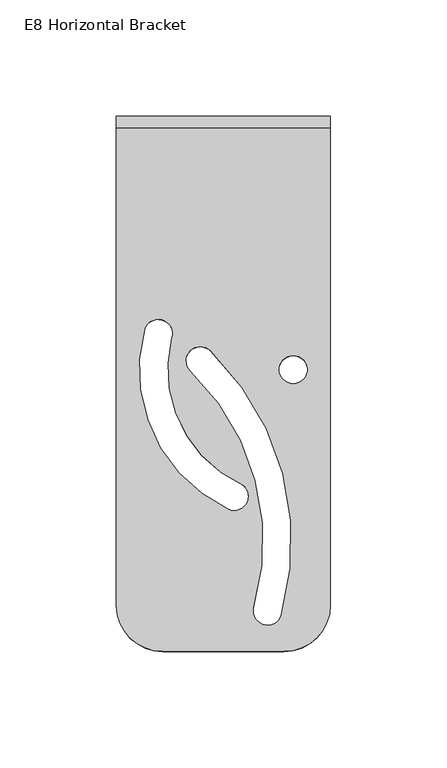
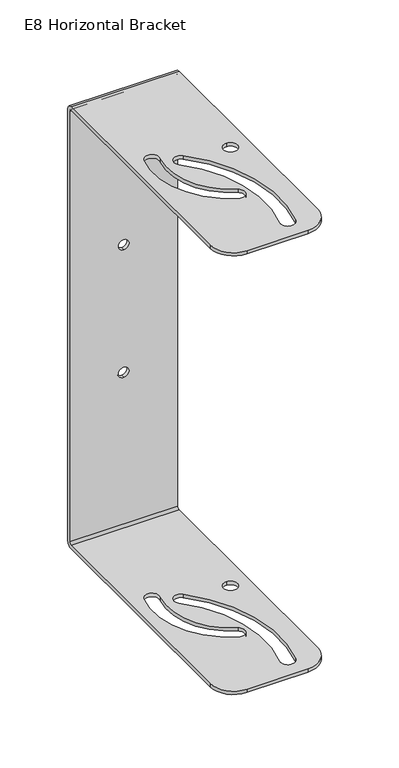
"""IFC4 building model written with IfcOpenShell, lengths in millimetres: proxy geometry, d&b E-Series E8 Horizontal Bracket : E8 Horizontal Bracket."""

from ifc_helpers import new_model, si_unit, frame, origin, place, context, project, spatial, polyline, circle_curve, source, transform, mapped, element, save
from ifc_brep_helpers import plane_surface, cylinder_surface, revolved_surface, advanced_brep


def e8_horizontal_bracket_a681bd05(model_context):
    return source(origin(), model_context, "Body", "AdvancedBrep", [
        advanced_brep(
        [(45.9817027, 153.9690661, -194.0), (45.9817027, 151.9690661, -196.0), (45.9817027, -53.0309339, -196.0), (45.9817027, -53.0309339, -199.0), (45.9817027, 151.9690661, -199.0), (45.9817027, 156.9690661, -194.0), (45.9817027, 156.9690661, 194.0), (45.9817027, 151.9690661, 199.0), (45.9817027, -53.0309339, 199.0), (45.9817027, -53.0309339, 196.0), (45.9817027, 151.9690661, 196.0), (45.9817027, 153.9690661, 194.0), (-46.0182973, 153.9690661, -194.0), (-46.0182973, 153.9690661, 194.0), (-46.0182973, 151.9690661, 196.0), (-46.0182973, -53.0309339, 196.0), (-46.0182973, -53.0309339, 199.0), (-46.0182973, 151.9690661, 199.0), (-46.0182973, 156.9690661, 194.0), (-46.0182973, 156.9690661, -194.0), (-46.0182973, 151.9690661, -199.0), (-46.0182973, -53.0309339, -199.0), (-46.0182973, -53.0309339, -196.0), (-46.0182973, 151.9690661, -196.0), (0.0, 156.9690661, 61.9896337), (0.0, 156.9690661, 53.0103663), (0.0, 156.9690661, -53.0103663), (0.0, 156.9690661, -61.9896337), (0.0, 153.9690661, 53.0103663), (0.0, 153.9690661, 61.9896337), (0.0, 153.9690661, -61.9896337), (0.0, 153.9690661, -53.0103663), (-26.0182973, -73.0309339, 199.0), (25.9817027, -73.0309339, 199.0), (-14.1902572, 47.6455979, 199.0), (-5.7052789, 56.1305762, 199.0), (24.7060015, -57.3658677, 199.0), (13.1188182, -54.2732591, 199.0), (-33.636953, 65.6897539, 199.0), (-22.3223495, 61.571575, 199.0), (7.946898, -1.3324888, 199.0), (2.1938544, -11.8678391, 199.0), (30.0, 42.122613, 199.0), (30.0, 54.077387, 199.0), (25.9817027, -73.0309339, 196.0), (-26.0182973, -73.0309339, 196.0), (-14.1902572, 47.6455979, 196.0), (13.1188182, -54.2732591, 196.0), (24.7060015, -57.3658677, 196.0), (-5.7052789, 56.1305762, 196.0), (-33.636953, 65.6897539, 196.0), (2.1938544, -11.8678391, 196.0), (7.946898, -1.3324888, 196.0), (-22.3223495, 61.571575, 196.0), (30.0, 42.122613, 196.0), (30.0, 54.077387, 196.0), (-26.0182973, -73.0309339, -196.0), (25.9817027, -73.0309339, -196.0), (-14.1902572, 47.6455979, -196.0), (-5.7052789, 56.1305762, -196.0), (24.7060015, -57.3658677, -196.0), (13.1188182, -54.2732591, -196.0), (-33.636953, 65.6897539, -196.0), (-22.3223495, 61.571575, -196.0), (7.946898, -1.3324888, -196.0), (2.1938544, -11.8678391, -196.0), (30.0, 42.122613, -196.0), (30.0, 54.077387, -196.0), (25.9817027, -73.0309339, -199.0), (-26.0182973, -73.0309339, -199.0), (-14.1902572, 47.6455979, -199.0), (13.1188182, -54.2732591, -199.0), (24.7060015, -57.3658677, -199.0), (-5.7052789, 56.1305762, -199.0), (-33.636953, 65.6897539, -199.0), (2.1938544, -11.8678391, -199.0), (7.946898, -1.3324888, -199.0), (-22.3223495, 61.571575, -199.0), (30.0, 42.122613, -199.0), (30.0, 54.077387, -199.0)],
        [
            (0, 1, circle_curve(frame((45.9817027, 151.9690661, -194.0), z_axis=(-1.0, 0.0, 0.0), x_axis=(0.0, 1.0, 0.0)), 2.0)),
            (1, 2),
            (2, 3),
            (3, 4),
            (4, 5, circle_curve(frame((45.9817027, 151.9690661, -194.0), z_axis=(1.0, 0.0, 0.0), x_axis=(0.0, 1.0, 0.0)), 5.0)),
            (5, 6),
            (6, 7, circle_curve(frame((45.9817027, 151.9690661, 194.0), z_axis=(1.0, 0.0, 0.0), x_axis=(0.0, 1.0, 0.0)), 5.0)),
            (7, 8),
            (8, 9),
            (9, 10),
            (10, 11, circle_curve(frame((45.9817027, 151.9690661, 194.0), z_axis=(-1.0, 0.0, 0.0), x_axis=(0.0, 1.0, 0.0)), 2.0)),
            (11, 0),
            (12, 13),
            (13, 14, circle_curve(frame((-46.0182973, 151.9690661, 194.0), z_axis=(1.0, 0.0, 0.0), x_axis=(0.0, 1.0, 0.0)), 2.0)),
            (14, 15),
            (15, 16),
            (16, 17),
            (17, 18, circle_curve(frame((-46.0182973, 151.9690661, 194.0), z_axis=(-1.0, 0.0, 0.0), x_axis=(0.0, 1.0, 0.0)), 5.0)),
            (18, 19),
            (19, 20, circle_curve(frame((-46.0182973, 151.9690661, -194.0), z_axis=(-1.0, 0.0, 0.0), x_axis=(0.0, 1.0, 0.0)), 5.0)),
            (20, 21),
            (21, 22),
            (22, 23),
            (23, 12, circle_curve(frame((-46.0182973, 151.9690661, -194.0), z_axis=(1.0, 0.0, 0.0), x_axis=(0.0, 1.0, 0.0)), 2.0)),
            (0, 12),
            (23, 1),
            (4, 20),
            (19, 5),
            (18, 6),
            (24, 25, circle_curve(frame((0.0, 156.9690661, 57.5), z_axis=(0.0, -1.0, 0.0), x_axis=(0.0, 0.0, -1.0)), 4.4896337)),
            (25, 24, circle_curve(frame((0.0, 156.9690661, 57.5), z_axis=(0.0, -1.0, 0.0), x_axis=(0.0, 0.0, -1.0)), 4.4896337)),
            (26, 27, circle_curve(frame((0.0, 156.9690661, -57.5), z_axis=(0.0, -1.0, 0.0), x_axis=(0.0, 0.0, -1.0)), 4.4896337)),
            (27, 26, circle_curve(frame((0.0, 156.9690661, -57.5), z_axis=(0.0, -1.0, 0.0), x_axis=(0.0, 0.0, -1.0)), 4.4896337)),
            (17, 7),
            (10, 14),
            (13, 11),
            (28, 29, circle_curve(frame((0.0, 153.9690661, 57.5), z_axis=(0.0, 1.0, 0.0), x_axis=(0.0, 0.0, -1.0)), 4.4896337)),
            (29, 28, circle_curve(frame((0.0, 153.9690661, 57.5), z_axis=(0.0, 1.0, 0.0), x_axis=(0.0, 0.0, -1.0)), 4.4896337)),
            (30, 31, circle_curve(frame((0.0, 153.9690661, -57.5), z_axis=(0.0, 1.0, 0.0), x_axis=(0.0, 0.0, -1.0)), 4.4896337)),
            (31, 30, circle_curve(frame((0.0, 153.9690661, -57.5), z_axis=(0.0, 1.0, 0.0), x_axis=(0.0, 0.0, -1.0)), 4.4896337)),
            (16, 32, circle_curve(frame((-26.0182973, -53.0309339, 199.0), z_axis=(0.0, 0.0, 1.0), x_axis=(0.0, 1.0, 0.0)), 20.0)),
            (32, 33),
            (33, 8, circle_curve(frame((25.9817027, -53.0309339, 199.0), z_axis=(0.0, 0.0, 1.0), x_axis=(0.0, 1.0, 0.0)), 20.0)),
            (34, 35, circle_curve(frame((-9.9836293, 51.9239482, 199.0), z_axis=(0.0, 0.0, -1.0), x_axis=(0.0, 1.0, 0.0)), 6.0)),
            (35, 36, circle_curve(frame((-84.5730083, -25.8245292, 199.0), z_axis=(0.0, 0.0, -1.0), x_axis=(0.0, 1.0, 0.0)), 113.73987)),
            (36, 37, circle_curve(frame((18.9660317, -55.6186567, 199.0), z_axis=(0.0, 0.0, -1.0), x_axis=(0.0, 1.0, 0.0)), 6.0)),
            (37, 34, circle_curve(frame((-84.2439289, -25.7433777, 199.0), z_axis=(0.0, 0.0, 1.0), x_axis=(0.0, 1.0, 0.0)), 101.4566837)),
            (38, 39, circle_curve(frame((-27.9879054, 63.6079863, 199.0), z_axis=(0.0, 0.0, -1.0), x_axis=(0.0, 1.0, 0.0)), 6.0204231)),
            (39, 40, circle_curve(frame((30.187041, 48.1041692, 199.0), z_axis=(0.0, 0.0, 1.0), x_axis=(0.0, 1.0, 0.0)), 54.208921)),
            (40, 41, circle_curve(frame((4.6379817, -6.3640461, 199.0), z_axis=(0.0, 0.0, -1.0), x_axis=(0.0, 1.0, 0.0)), 6.022084)),
            (41, 38, circle_curve(frame((30.2083692, 48.1301056, 199.0), z_axis=(0.0, 0.0, -1.0), x_axis=(0.0, 1.0, 0.0)), 66.2160586)),
            (42, 43, circle_curve(frame((30.0, 48.1, 199.0), z_axis=(0.0, 0.0, -1.0), x_axis=(0.0, 1.0, 0.0)), 5.977387)),
            (43, 42, circle_curve(frame((30.0, 48.1, 199.0), z_axis=(0.0, 0.0, -1.0), x_axis=(0.0, 1.0, 0.0)), 5.977387)),
            (9, 44, circle_curve(frame((25.9817027, -53.0309339, 196.0), z_axis=(0.0, 0.0, -1.0), x_axis=(0.0, 1.0, 0.0)), 20.0)),
            (44, 45),
            (45, 15, circle_curve(frame((-26.0182973, -53.0309339, 196.0), z_axis=(0.0, 0.0, -1.0), x_axis=(0.0, 1.0, 0.0)), 20.0)),
            (46, 47, circle_curve(frame((-84.2439289, -25.7433777, 196.0), z_axis=(0.0, 0.0, -1.0), x_axis=(0.0, 1.0, 0.0)), 101.4566837)),
            (47, 48, circle_curve(frame((18.9660317, -55.6186567, 196.0), z_axis=(0.0, 0.0, 1.0), x_axis=(0.0, 1.0, 0.0)), 6.0)),
            (48, 49, circle_curve(frame((-84.5730083, -25.8245292, 196.0), z_axis=(0.0, 0.0, 1.0), x_axis=(0.0, 1.0, 0.0)), 113.73987)),
            (49, 46, circle_curve(frame((-9.9836293, 51.9239482, 196.0), z_axis=(0.0, 0.0, 1.0), x_axis=(0.0, 1.0, 0.0)), 6.0)),
            (50, 51, circle_curve(frame((30.2083692, 48.1301056, 196.0), z_axis=(0.0, 0.0, 1.0), x_axis=(0.0, 1.0, 0.0)), 66.2160586)),
            (51, 52, circle_curve(frame((4.6379817, -6.3640461, 196.0), z_axis=(0.0, 0.0, 1.0), x_axis=(0.0, 1.0, 0.0)), 6.022084)),
            (52, 53, circle_curve(frame((30.187041, 48.1041692, 196.0), z_axis=(0.0, 0.0, -1.0), x_axis=(0.0, 1.0, 0.0)), 54.208921)),
            (53, 50, circle_curve(frame((-27.9879054, 63.6079863, 196.0), z_axis=(0.0, 0.0, 1.0), x_axis=(0.0, 1.0, 0.0)), 6.0204231)),
            (54, 55, circle_curve(frame((30.0, 48.1, 196.0), z_axis=(0.0, 0.0, 1.0), x_axis=(0.0, 1.0, 0.0)), 5.977387)),
            (55, 54, circle_curve(frame((30.0, 48.1, 196.0), z_axis=(0.0, 0.0, 1.0), x_axis=(0.0, 1.0, 0.0)), 5.977387)),
            (45, 32),
            (44, 33),
            (34, 46),
            (49, 35),
            (48, 36),
            (47, 37),
            (38, 50),
            (53, 39),
            (52, 40),
            (51, 41),
            (42, 54),
            (55, 43),
            (22, 56, circle_curve(frame((-26.0182973, -53.0309339, -196.0), z_axis=(0.0, 0.0, 1.0), x_axis=(0.0, 1.0, 0.0)), 20.0)),
            (56, 57),
            (57, 2, circle_curve(frame((25.9817027, -53.0309339, -196.0), z_axis=(0.0, 0.0, 1.0), x_axis=(0.0, 1.0, 0.0)), 20.0)),
            (58, 59, circle_curve(frame((-9.9836293, 51.9239482, -196.0), z_axis=(0.0, 0.0, -1.0), x_axis=(0.0, 1.0, 0.0)), 6.0)),
            (59, 60, circle_curve(frame((-84.5730083, -25.8245292, -196.0), z_axis=(0.0, 0.0, -1.0), x_axis=(0.0, 1.0, 0.0)), 113.73987)),
            (60, 61, circle_curve(frame((18.9660317, -55.6186567, -196.0), z_axis=(0.0, 0.0, -1.0), x_axis=(0.0, 1.0, 0.0)), 6.0)),
            (61, 58, circle_curve(frame((-84.2439289, -25.7433777, -196.0), z_axis=(0.0, 0.0, 1.0), x_axis=(0.0, 1.0, 0.0)), 101.4566837)),
            (62, 63, circle_curve(frame((-27.9879054, 63.6079863, -196.0), z_axis=(0.0, 0.0, -1.0), x_axis=(0.0, 1.0, 0.0)), 6.0204231)),
            (63, 64, circle_curve(frame((30.187041, 48.1041692, -196.0), z_axis=(0.0, 0.0, 1.0), x_axis=(0.0, 1.0, 0.0)), 54.208921)),
            (64, 65, circle_curve(frame((4.6379817, -6.3640461, -196.0), z_axis=(0.0, 0.0, -1.0), x_axis=(0.0, 1.0, 0.0)), 6.022084)),
            (65, 62, circle_curve(frame((30.2083692, 48.1301056, -196.0), z_axis=(0.0, 0.0, -1.0), x_axis=(0.0, 1.0, 0.0)), 66.2160586)),
            (66, 67, circle_curve(frame((30.0, 48.1, -196.0), z_axis=(0.0, 0.0, -1.0), x_axis=(0.0, 1.0, 0.0)), 5.977387)),
            (67, 66, circle_curve(frame((30.0, 48.1, -196.0), z_axis=(0.0, 0.0, -1.0), x_axis=(0.0, 1.0, 0.0)), 5.977387)),
            (3, 68, circle_curve(frame((25.9817027, -53.0309339, -199.0), z_axis=(0.0, 0.0, -1.0), x_axis=(0.0, 1.0, 0.0)), 20.0)),
            (68, 69),
            (69, 21, circle_curve(frame((-26.0182973, -53.0309339, -199.0), z_axis=(0.0, 0.0, -1.0), x_axis=(0.0, 1.0, 0.0)), 20.0)),
            (70, 71, circle_curve(frame((-84.2439289, -25.7433777, -199.0), z_axis=(0.0, 0.0, -1.0), x_axis=(0.0, 1.0, 0.0)), 101.4566837)),
            (71, 72, circle_curve(frame((18.9660317, -55.6186567, -199.0), z_axis=(0.0, 0.0, 1.0), x_axis=(0.0, 1.0, 0.0)), 6.0)),
            (72, 73, circle_curve(frame((-84.5730083, -25.8245292, -199.0), z_axis=(0.0, 0.0, 1.0), x_axis=(0.0, 1.0, 0.0)), 113.73987)),
            (73, 70, circle_curve(frame((-9.9836293, 51.9239482, -199.0), z_axis=(0.0, 0.0, 1.0), x_axis=(0.0, 1.0, 0.0)), 6.0)),
            (74, 75, circle_curve(frame((30.2083692, 48.1301056, -199.0), z_axis=(0.0, 0.0, 1.0), x_axis=(0.0, 1.0, 0.0)), 66.2160586)),
            (75, 76, circle_curve(frame((4.6379817, -6.3640461, -199.0), z_axis=(0.0, 0.0, 1.0), x_axis=(0.0, 1.0, 0.0)), 6.022084)),
            (76, 77, circle_curve(frame((30.187041, 48.1041692, -199.0), z_axis=(0.0, 0.0, -1.0), x_axis=(0.0, 1.0, 0.0)), 54.208921)),
            (77, 74, circle_curve(frame((-27.9879054, 63.6079863, -199.0), z_axis=(0.0, 0.0, 1.0), x_axis=(0.0, 1.0, 0.0)), 6.0204231)),
            (78, 79, circle_curve(frame((30.0, 48.1, -199.0), z_axis=(0.0, 0.0, 1.0), x_axis=(0.0, 1.0, 0.0)), 5.977387)),
            (79, 78, circle_curve(frame((30.0, 48.1, -199.0), z_axis=(0.0, 0.0, 1.0), x_axis=(0.0, 1.0, 0.0)), 5.977387)),
            (69, 56),
            (68, 57),
            (58, 70),
            (73, 59),
            (72, 60),
            (71, 61),
            (62, 74),
            (77, 63),
            (76, 64),
            (75, 65),
            (66, 78),
            (79, 67),
            (24, 29),
            (28, 25),
            (26, 31),
            (30, 27),
        ],
        [
            plane_surface(frame((45.9817027, 153.9690661, -194.0), z_axis=(1.0, 0.0, 0.0), x_axis=(0.0, 0.0, -1.0))),
            plane_surface(frame((-46.0182973, 153.9690661, -194.0), z_axis=(-1.0, 0.0, 0.0), x_axis=(0.0, 0.0, 1.0))),
            revolved_surface(polyline([(-46.0182973, 153.9690661, -194.0), (45.9817027, 153.9690661, -194.0)]), (-46.0182973, 151.9690661, -194.0), (-1.0, 0.0, 0.0)),
            cylinder_surface(frame((-46.0182973, 151.9690661, -194.0), z_axis=(1.0, 0.0, 0.0), x_axis=(0.0, 1.0, 0.0)), 5.0),
            plane_surface(frame((45.9817027, 156.9690661, -194.0), z_axis=(0.0, 1.0, 0.0), x_axis=(-1.0, 0.0, 0.0))),
            cylinder_surface(frame((-46.0182973, 151.9690661, 194.0), z_axis=(1.0, 0.0, 0.0), x_axis=(0.0, 1.0, 0.0)), 5.0),
            revolved_surface(polyline([(-46.0182973, 153.9690661, 194.0), (45.9817027, 153.9690661, 194.0)]), (-46.0182973, 151.9690661, 194.0), (-1.0, 0.0, 0.0)),
            plane_surface(frame((45.9817027, 153.9690661, 194.0), z_axis=(0.0, -1.0, 0.0), x_axis=(-1.0, 0.0, 0.0))),
            plane_surface(frame((-26.0182973, -33.0309339, 199.0), z_axis=(0.0, 0.0, 1.0), x_axis=(-1.0, 0.0, 0.0))),
            plane_surface(frame((-26.0182973, -33.0309339, 196.0), z_axis=(0.0, 0.0, -1.0), x_axis=(1.0, 0.0, 0.0))),
            cylinder_surface(frame((-26.0182973, -53.0309339, 196.0), z_axis=(0.0, 0.0, 1.0), x_axis=(0.0, 1.0, 0.0)), 20.0),
            plane_surface(frame((-26.0182973, -73.0309339, 199.0), z_axis=(0.0, -1.0, 0.0), x_axis=(0.0, 0.0, -1.0))),
            cylinder_surface(frame((25.9817027, -53.0309339, 196.0), z_axis=(0.0, 0.0, 1.0), x_axis=(0.0, 1.0, 0.0)), 20.0),
            revolved_surface(polyline([(-9.9836293, 57.9239482, 196.0), (-9.9836293, 57.9239482, 199.0)]), (-9.9836293, 51.9239482, 0.0), (0.0, 0.0, -1.0)),
            revolved_surface(polyline([(-84.5730083, 87.9153408, 196.0), (-84.5730083, 87.9153408, 199.0)]), (-84.5730083, -25.8245292, 0.0), (0.0, 0.0, -1.0)),
            revolved_surface(polyline([(18.9660317, -49.6186567, 196.0), (18.9660317, -49.6186567, 199.0)]), (18.9660317, -55.6186567, 0.0), (0.0, 0.0, -1.0)),
            cylinder_surface(frame((-84.2439289, -25.7433777, 0.0), z_axis=(0.0, 0.0, 1.0), x_axis=(0.0, 1.0, 0.0)), 101.4566837),
            revolved_surface(polyline([(-27.9879054, 69.6284094, 196.0), (-27.9879054, 69.6284094, 199.0)]), (-27.9879054, 63.6079863, 0.0), (0.0, 0.0, -1.0)),
            cylinder_surface(frame((30.187041, 48.1041692, 0.0), z_axis=(0.0, 0.0, 1.0), x_axis=(0.0, 1.0, 0.0)), 54.208921),
            revolved_surface(polyline([(4.6379817, -0.34196209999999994, 196.0), (4.6379817, -0.34196209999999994, 199.0)]), (4.6379817, -6.3640461, 0.0), (0.0, 0.0, -1.0)),
            revolved_surface(polyline([(30.2083692, 114.3461642, 196.0), (30.2083692, 114.3461642, 199.0)]), (30.2083692, 48.1301056, 0.0), (0.0, 0.0, -1.0)),
            revolved_surface(polyline([(30.0, 54.077387, 196.0), (30.0, 54.077387, 199.0)]), (30.0, 48.1, 0.0), (0.0, 0.0, -1.0)),
            plane_surface(frame((-26.0182973, -33.0309339, -196.0), z_axis=(0.0, 0.0, 1.0), x_axis=(-1.0, 0.0, 0.0))),
            plane_surface(frame((-26.0182973, -33.0309339, -199.0), z_axis=(0.0, 0.0, -1.0), x_axis=(1.0, 0.0, 0.0))),
            cylinder_surface(frame((-26.0182973, -53.0309339, -199.0), z_axis=(0.0, 0.0, 1.0), x_axis=(0.0, 1.0, 0.0)), 20.0),
            plane_surface(frame((-26.0182973, -73.0309339, -196.0), z_axis=(0.0, -1.0, 0.0), x_axis=(0.0, 0.0, -1.0))),
            cylinder_surface(frame((25.9817027, -53.0309339, -199.0), z_axis=(0.0, 0.0, 1.0), x_axis=(0.0, 1.0, 0.0)), 20.0),
            revolved_surface(polyline([(-9.9836293, 57.9239482, -199.0), (-9.9836293, 57.9239482, -196.0)]), (-9.9836293, 51.9239482, 0.0), (0.0, 0.0, -1.0)),
            revolved_surface(polyline([(-84.5730083, 87.9153408, -199.0), (-84.5730083, 87.9153408, -196.0)]), (-84.5730083, -25.8245292, 0.0), (0.0, 0.0, -1.0)),
            revolved_surface(polyline([(18.9660317, -49.6186567, -199.0), (18.9660317, -49.6186567, -196.0)]), (18.9660317, -55.6186567, 0.0), (0.0, 0.0, -1.0)),
            revolved_surface(polyline([(-27.9879054, 69.6284094, -199.0), (-27.9879054, 69.6284094, -196.0)]), (-27.9879054, 63.6079863, 0.0), (0.0, 0.0, -1.0)),
            revolved_surface(polyline([(4.6379817, -0.34196209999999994, -199.0), (4.6379817, -0.34196209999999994, -196.0)]), (4.6379817, -6.3640461, 0.0), (0.0, 0.0, -1.0)),
            revolved_surface(polyline([(30.2083692, 114.3461642, -199.0), (30.2083692, 114.3461642, -196.0)]), (30.2083692, 48.1301056, 0.0), (0.0, 0.0, -1.0)),
            revolved_surface(polyline([(30.0, 54.077387, -199.0), (30.0, 54.077387, -196.0)]), (30.0, 48.1, 0.0), (0.0, 0.0, -1.0)),
            revolved_surface(polyline([(0.0, 153.9690661, 53.0103663), (0.0, 156.9690661, 53.0103663)]), (0.0, 205.0690661, 57.5), (0.0, -1.0, 0.0)),
            revolved_surface(polyline([(0.0, 153.9690661, -61.9896337), (0.0, 156.9690661, -61.9896337)]), (0.0, 96.2, -57.5), (0.0, -1.0, 0.0)),
        ],
        [
            (0, [[1, 2, 3, 4, 5, 6, 7, 8, 9, 10, 11, 12]]),
            (1, [[13, 14, 15, 16, 17, 18, 19, 20, 21, 22, 23, 24]]),
            (2, [[-1, 25, -24, 26]]),
            (3, [[-5, 27, -20, 28]]),
            (4, [[-6, -28, -19, 29], [30, 31], [32, 33]]),
            (5, [[-7, -29, -18, 34]]),
            (6, [[-11, 35, -14, 36]]),
            (7, [[-12, -36, -13, -25], [37, 38], [39, 40]]),
            (8, [[41, 42, 43, -8, -34, -17], [44, 45, 46, 47], [48, 49, 50, 51], [52, 53]]),
            (9, [[-15, -35, -10, 54, 55, 56], [57, 58, 59, 60], [61, 62, 63, 64], [65, 66]]),
            (10, [[-41, -16, -56, 67]]),
            (11, [[-42, -67, -55, 68]]),
            (12, [[-43, -68, -54, -9]]),
            (13, [[-44, 69, -60, 70]]),
            (14, [[-45, -70, -59, 71]]),
            (15, [[-46, -71, -58, 72]]),
            (16, [[-47, -72, -57, -69]]),
            (17, [[-48, 73, -64, 74]]),
            (18, [[-49, -74, -63, 75]]),
            (19, [[-50, -75, -62, 76]]),
            (20, [[-51, -76, -61, -73]]),
            (21, [[-52, 77, -66, 78]]),
            (21, [[-53, -78, -65, -77]]),
            (22, [[79, 80, 81, -2, -26, -23], [82, 83, 84, 85], [86, 87, 88, 89], [90, 91]]),
            (23, [[-21, -27, -4, 92, 93, 94], [95, 96, 97, 98], [99, 100, 101, 102], [103, 104]]),
            (24, [[-79, -22, -94, 105]]),
            (25, [[-80, -105, -93, 106]]),
            (26, [[-81, -106, -92, -3]]),
            (27, [[-82, 107, -98, 108]]),
            (28, [[-83, -108, -97, 109]]),
            (29, [[-84, -109, -96, 110]]),
            (16, [[-85, -110, -95, -107]]),
            (30, [[-86, 111, -102, 112]]),
            (18, [[-87, -112, -101, 113]]),
            (31, [[-88, -113, -100, 114]]),
            (32, [[-89, -114, -99, -111]]),
            (33, [[-90, 115, -104, 116]]),
            (33, [[-91, -116, -103, -115]]),
            (34, [[117, -37, 118, -30]]),
            (34, [[-117, -31, -118, -38]]),
            (35, [[119, -39, 120, -32]]),
            (35, [[-119, -33, -120, -40]]),
        ],
    ),
    ])


if __name__ == "__main__":
    model = new_model("IFC4")
    model_context = context("Model", 3, world=origin())
    ifc_project = project(units=[si_unit("LENGTHUNIT", "METRE", prefix="MILLI")], contexts=[model_context])
    site = spatial("IfcSite", under=ifc_project)
    building = spatial("IfcBuilding", under=site)
    placement = place(None, origin())
    e8_horizontal_bracket_shape = e8_horizontal_bracket_a681bd05(model_context)
    element("IfcBuildingElementProxy", 1, Name="d&b E-Series E8 Horizontal Bracket : E8 Horizontal Bracket", ObjectType="d&b E-Series E8 Horizontal Bracket : E8 Horizontal Bracket", at=placement, inside=building, context=model_context, shape_type="MappedRepresentation", body=[
        mapped(e8_horizontal_bracket_shape, transform((0.0, 0.0, 0.0), x_axis=(1.0, 0.0, 0.0), y_axis=(0.0, 1.0, 0.0), z_axis=(0.0, 0.0, 1.0))),
    ])
    save(model, "model.ifc")
